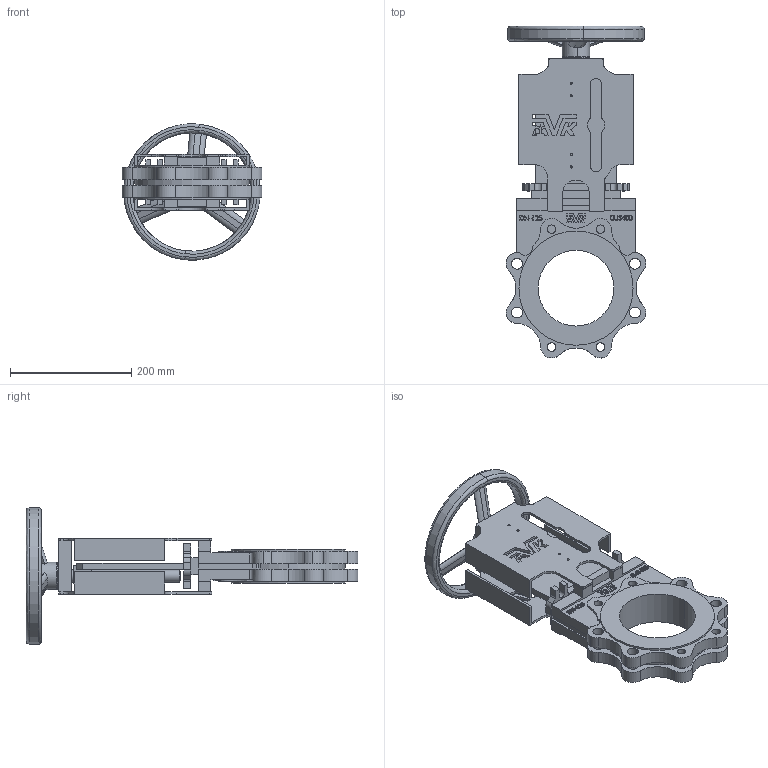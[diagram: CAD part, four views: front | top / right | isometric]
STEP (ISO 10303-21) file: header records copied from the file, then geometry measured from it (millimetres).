
FILE_DESCRIPTION (( 'STEP AP203' ), '1' );
FILE_NAME ('Ensamblaje AVKF PR DN-125.STEP', '2019-02-26T11:15:01', ( '' ), ( '' ), 'SwSTEP 2.0', 'SolidWorks 2016', '' );
FILE_SCHEMA (( 'CONFIG_CONTROL_DESIGN' ));
Length unit declared in the file: millimetre
Products named in the file (2): Pieza10^Ensamblaje AVKF PR DN-125; Ensamblaje AVKF PR DN-125
Assembly tree (1 placements, depth 2):
  Ensamblaje AVKF PR DN-125
    Pieza10^Ensamblaje AVKF PR DN-125
Bounding box: 230.01 x 546.47 x 224.47 mm (x, y, z)
Volume: 3065977.5 mm3; surface area: 521510.2 mm2
Topology: 1 solids, 1 shells, 1101 faces, 3138 edges, 2077 vertices
Faces by surface type: plane 520, cylinder 419, bspline 160, cone 2
Entity records: 45988 total; most frequent: CARTESIAN_POINT 17372, ORIENTED_EDGE 6256, DIRECTION 5516, EDGE_CURVE 3128, VERTEX_POINT 2075, VECTOR 1938, LINE 1938, AXIS2_PLACEMENT_3D 1789
